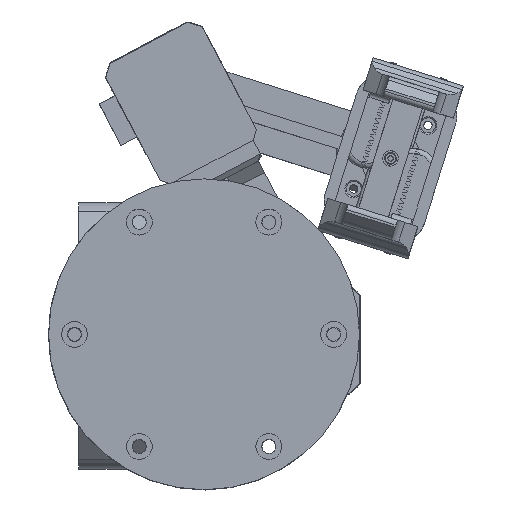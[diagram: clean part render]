
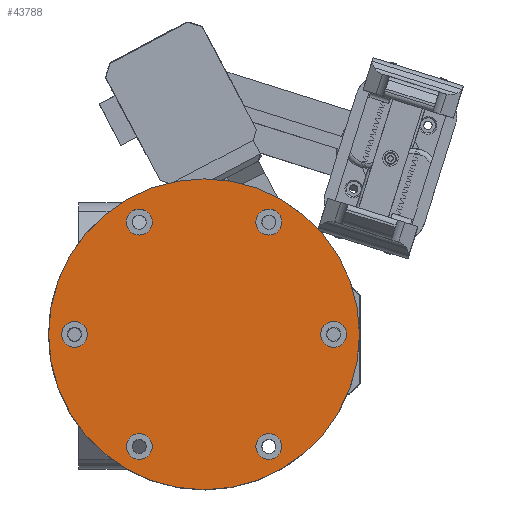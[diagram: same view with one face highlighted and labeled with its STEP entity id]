
A CAD part, top view. The second image highlights one B-rep face of the part: STEP entity #43788.
In plain terms, the highlighted planar face has unit normal (0, 0, 1).
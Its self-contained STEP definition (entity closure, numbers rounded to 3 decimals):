
#2341=FACE_BOUND('',#7586,.T.);
#2342=FACE_BOUND('',#7587,.T.);
#2343=FACE_BOUND('',#7588,.T.);
#2344=FACE_BOUND('',#7589,.T.);
#2345=FACE_BOUND('',#7590,.T.);
#2346=FACE_BOUND('',#7591,.T.);
#3211=PLANE('',#47745);
#4993=FACE_OUTER_BOUND('',#7585,.T.);
#7585=EDGE_LOOP('',(#34537));
#7586=EDGE_LOOP('',(#34538));
#7587=EDGE_LOOP('',(#34539));
#7588=EDGE_LOOP('',(#34540));
#7589=EDGE_LOOP('',(#34541));
#7590=EDGE_LOOP('',(#34542));
#7591=EDGE_LOOP('',(#34543));
#17908=CIRCLE('',#47704,5.);
#17912=CIRCLE('',#47711,5.);
#17916=CIRCLE('',#47718,5.);
#17920=CIRCLE('',#47725,5.);
#17924=CIRCLE('',#47732,5.);
#17928=CIRCLE('',#47739,5.);
#17930=CIRCLE('',#47743,60.);
#20511=VERTEX_POINT('',#67938);
#20515=VERTEX_POINT('',#67951);
#20519=VERTEX_POINT('',#67964);
#20523=VERTEX_POINT('',#67977);
#20527=VERTEX_POINT('',#67990);
#20531=VERTEX_POINT('',#68003);
#20533=VERTEX_POINT('',#68011);
#25627=EDGE_CURVE('',#20511,#20511,#17908,.T.);
#25633=EDGE_CURVE('',#20515,#20515,#17912,.T.);
#25639=EDGE_CURVE('',#20519,#20519,#17916,.T.);
#25645=EDGE_CURVE('',#20523,#20523,#17920,.T.);
#25651=EDGE_CURVE('',#20527,#20527,#17924,.T.);
#25657=EDGE_CURVE('',#20531,#20531,#17928,.T.);
#25660=EDGE_CURVE('',#20533,#20533,#17930,.T.);
#34537=ORIENTED_EDGE('',*,*,#25660,.T.);
#34538=ORIENTED_EDGE('',*,*,#25627,.T.);
#34539=ORIENTED_EDGE('',*,*,#25633,.T.);
#34540=ORIENTED_EDGE('',*,*,#25639,.T.);
#34541=ORIENTED_EDGE('',*,*,#25645,.T.);
#34542=ORIENTED_EDGE('',*,*,#25651,.T.);
#34543=ORIENTED_EDGE('',*,*,#25657,.T.);
#43788=ADVANCED_FACE('',(#4993,#2341,#2342,#2343,#2344,#2345,#2346),#3211,
 .T.);
#47704=AXIS2_PLACEMENT_3D('',#67940,#55175,#55176);
#47711=AXIS2_PLACEMENT_3D('',#67953,#55191,#55192);
#47718=AXIS2_PLACEMENT_3D('',#67966,#55207,#55208);
#47725=AXIS2_PLACEMENT_3D('',#67979,#55223,#55224);
#47732=AXIS2_PLACEMENT_3D('',#67992,#55239,#55240);
#47739=AXIS2_PLACEMENT_3D('',#68005,#55255,#55256);
#47743=AXIS2_PLACEMENT_3D('',#68012,#55264,#55265);
#47745=AXIS2_PLACEMENT_3D('',#68016,#55269,#55270);
#55175=DIRECTION('center_axis',(0.,0.,-1.));
#55176=DIRECTION('ref_axis',(1.,0.,0.));
#55191=DIRECTION('center_axis',(0.,0.,-1.));
#55192=DIRECTION('ref_axis',(1.,0.,0.));
#55207=DIRECTION('center_axis',(0.,0.,-1.));
#55208=DIRECTION('ref_axis',(1.,0.,0.));
#55223=DIRECTION('center_axis',(0.,0.,-1.));
#55224=DIRECTION('ref_axis',(1.,0.,0.));
#55239=DIRECTION('center_axis',(0.,0.,-1.));
#55240=DIRECTION('ref_axis',(1.,0.,0.));
#55255=DIRECTION('center_axis',(0.,0.,-1.));
#55256=DIRECTION('ref_axis',(1.,0.,0.));
#55264=DIRECTION('center_axis',(0.,0.,1.));
#55265=DIRECTION('ref_axis',(1.,0.,0.));
#55269=DIRECTION('center_axis',(0.,0.,1.));
#55270=DIRECTION('ref_axis',(1.,0.,0.));
#67938=CARTESIAN_POINT('',(-55.,0.,30.));
#67940=CARTESIAN_POINT('Origin',(-50.,0.,
30.));
#67951=CARTESIAN_POINT('',(-30.,43.301,30.));
#67953=CARTESIAN_POINT('Origin',(-25.,43.301,30.));
#67964=CARTESIAN_POINT('',(20.,43.301,30.));
#67966=CARTESIAN_POINT('Origin',(25.,43.301,30.));
#67977=CARTESIAN_POINT('',(45.,0.,30.));
#67979=CARTESIAN_POINT('Origin',(50.,0.,30.));
#67990=CARTESIAN_POINT('',(-30.,-43.301,30.));
#67992=CARTESIAN_POINT('Origin',(-25.,-43.301,30.));
#68003=CARTESIAN_POINT('',(20.,-43.301,30.));
#68005=CARTESIAN_POINT('Origin',(25.,-43.301,30.));
#68011=CARTESIAN_POINT('',(-60.,0.,30.));
#68012=CARTESIAN_POINT('Origin',(0.,0.,
30.));
#68016=CARTESIAN_POINT('Origin',(0.,0.,
30.));
